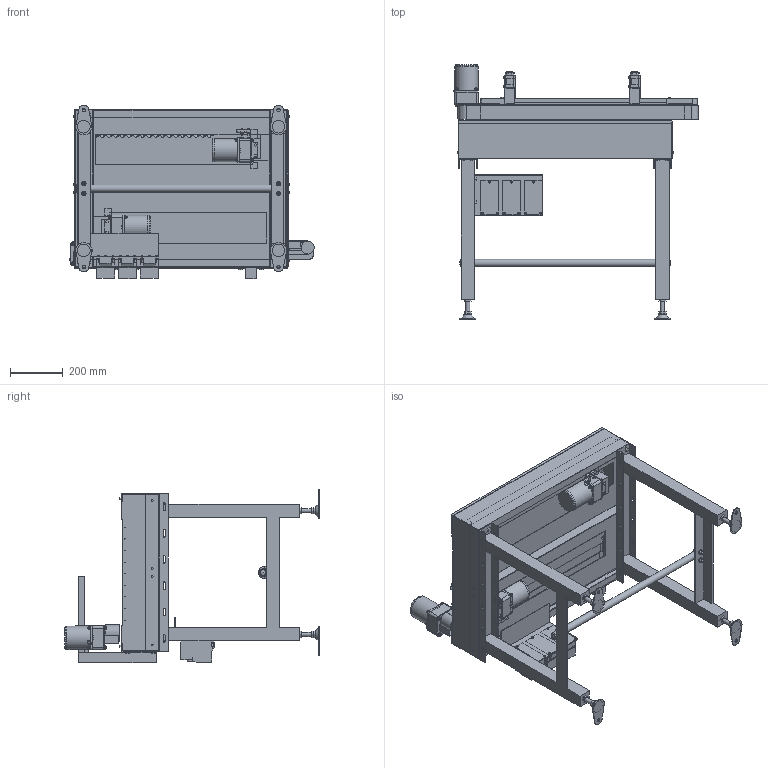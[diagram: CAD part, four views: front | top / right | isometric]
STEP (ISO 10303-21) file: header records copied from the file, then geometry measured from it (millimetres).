
FILE_DESCRIPTION( (''), '2;1');
FILE_NAME ('WEB-SGA-304x3-400-R-IVH-15-C.stp','2026-09-19T10:38:54',(''),(''),'spGate 21.9.5 (****-****-****-****)','','');
FILE_SCHEMA (('AUTOMOTIVE_DESIGN'));
Length unit declared in the file: millimetre
Products named in the file (91): WEB-SGA-304x3-400-R-IVH-15-C; TEMP_X_T-prt0; TEMP_X_T-prt1; TEMP_X_T-prt2; TEMP_X_T-prt3; TEMP_X_T-prt4; TEMP_X_T-prt5; TEMP_X_T-prt6; TEMP_X_T-prt7; TEMP_X_T-prt8; TEMP_X_T-prt9; TEMP_X_T-prt10; TEMP_X_T-prt11; TEMP_X_T-prt12; TEMP_X_T-prt13; TEMP_X_T-prt14; TEMP_X_T-prt15; TEMP_X_T-prt16; TEMP_X_T-prt17; TEMP_X_T-prt18; TEMP_X_T-prt19; TEMP_X_T-prt20; TEMP_X_T-prt21; TEMP_X_T-prt22; TEMP_X_T-prt23; TEMP_X_T-prt24; TEMP_X_T-prt25; TEMP_X_T-prt26; TEMP_X_T-prt27; TEMP_X_T-prt28; TEMP_X_T-prt29; TEMP_X_T-prt30; TEMP_X_T-prt31; TEMP_X_T-prt32; TEMP_X_T-prt33; TEMP_X_T-prt34; TEMP_X_T-prt35; TEMP_X_T-prt36; TEMP_X_T-prt37; TEMP_X_T-prt38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
Assembly tree (90 placements, depth 2):
  WEB-SGA-304x3-400-R-IVH-15-C
    TEMP_X_T-prt0
    TEMP_X_T-prt1
    TEMP_X_T-prt2
    TEMP_X_T-prt3
    TEMP_X_T-prt4
    TEMP_X_T-prt5
    TEMP_X_T-prt6
    TEMP_X_T-prt7
    TEMP_X_T-prt8
    TEMP_X_T-prt9
    TEMP_X_T-prt10
    TEMP_X_T-prt11
    TEMP_X_T-prt12
    TEMP_X_T-prt13
    TEMP_X_T-prt14
    TEMP_X_T-prt15
    TEMP_X_T-prt16
    TEMP_X_T-prt17
    TEMP_X_T-prt18
    TEMP_X_T-prt19
    TEMP_X_T-prt20
    TEMP_X_T-prt21
    TEMP_X_T-prt22
    TEMP_X_T-prt23
    TEMP_X_T-prt24
    TEMP_X_T-prt25
    TEMP_X_T-prt26
    TEMP_X_T-prt27
    TEMP_X_T-prt28
    TEMP_X_T-prt29
    TEMP_X_T-prt30
    TEMP_X_T-prt31
    TEMP_X_T-prt32
    TEMP_X_T-prt33
    TEMP_X_T-prt34
    TEMP_X_T-prt35
    TEMP_X_T-prt36
    TEMP_X_T-prt37
    TEMP_X_T-prt38
    TEMP_X_T-prt39
    TEMP_X_T-prt40
    TEMP_X_T-prt41
    TEMP_X_T-prt42
    TEMP_X_T-prt43
    TEMP_X_T-prt44
    TEMP_X_T-prt45
    TEMP_X_T-prt46
    TEMP_X_T-prt47
    TEMP_X_T-prt48
    TEMP_X_T-prt49
    TEMP_X_T-prt50
    TEMP_X_T-prt51
    TEMP_X_T-prt52
    TEMP_X_T-prt53
    TEMP_X_T-prt54
    TEMP_X_T-prt55
    TEMP_X_T-prt56
    TEMP_X_T-prt57
    TEMP_X_T-prt58
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Bounding box: 929.27 x 968.4 x 660 mm (x, y, z)
Volume: 24370874 mm3; surface area: 5499201.3 mm2
Topology: 90 solids, 91 shells, 2941 faces, 7603 edges, 5046 vertices
Faces by surface type: plane 2205, cylinder 514, bspline 214, sphere 8
Full cylindrical faces by diameter (mm): 2 x3, 3.3 x9, 4 x18, 5 x17, 5.5 x3, 6 x34, 6.5 x24, 6.6 x12, 7 x4, 8 x10, 8.49 x3, 9 x8, 10 x12, 10.5 x1, 11.5 x2, 12 x3, 12.2 x2, 12.5 x12, 13 x4, 16 x10, 17 x4, 20 x4, 22 x1, 27.2 x1, 28 x2, 36 x3, 40 x4, 50 x2, 83 x3, 84 x3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
Entity records: 157174 total; most frequent: CARTESIAN_POINT 22096, ORIENTED_EDGE 15162, DIRECTION 14493, COLOUR_RGB 10612, PRESENTATION_STYLE_ASSIGNMENT 10612, STYLED_ITEM 10612, EDGE_CURVE 7581, DRAUGHTING_PRE_DEFINED_CURVE_FONT 7581
